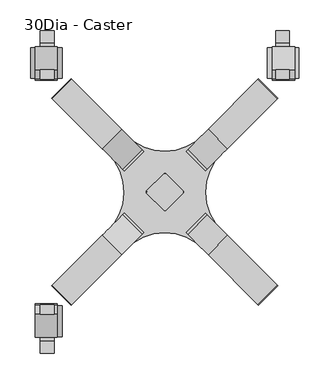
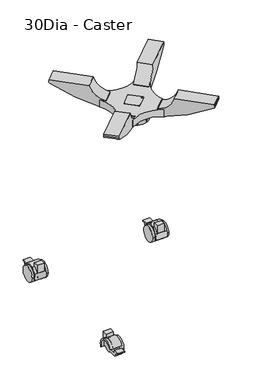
"""IFC4 building model written with IfcOpenShell, lengths in millimetres: furniture geometry, Coalesse_AM_Table_Conference_Ballet_Table_Round : 30Dia - Caster."""

from ifc_helpers import new_model, si_unit, point, frame, frame_2d, origin, place, context, project, spatial, polyline, circle_curve, ellipse_curve, trimmed, segment, composite_curve, outline, extrude, source, transform, mapped, element, save
from ifc_brep_helpers import plane_surface, cylinder_surface, revolved_surface, advanced_brep


def furniture_30dia_caster_6a6dbd40(model_context):
    return source(origin(), model_context, "Body", "SolidModel", [
        advanced_brep(
        [(-150.9398086, 182.2506224, 700.0114872), (-70.1175035, 101.4283173, 700.0114872), (-37.0411578, 68.3519716, 657.9865814), (-6.3643773, 37.6751912, 652.7037643), (0.0, 31.3108139, 656.2118338), (0.0, 31.3108139, 607.705542), (-12.3857352, 43.696549, 607.705542), (-14.2020287, 45.5128426, 611.6658356), (-15.6984339, 47.0092478, 622.1978097), (-23.1902019, 54.5010157, 628.8391432), (-41.0401266, 72.3509404, 632.6071482), (-149.5727323, 180.8835461, 688.6179), (-151.5948536, 182.9056675, 694.7577614), (1.002461, 30.3083528, 657.9865814), (30.3083528, 1.002461, 657.9865814), (31.3108139, 0.0, 656.2118338), (37.6751912, -6.3643773, 652.7037643), (68.3519716, -37.0411578, 657.9865814), (101.4283173, -70.1175035, 700.0114872), (182.2506224, -150.9398086, 700.0114872), (182.9056675, -151.5948536, 694.7577614), (180.8835461, -149.5727323, 688.6179), (72.3509404, -41.0401266, 632.6071482), (54.5010157, -23.1902019, 628.8391432), (47.0092478, -15.6984339, 622.1978097), (45.5128426, -14.2020287, 611.6658356), (43.696549, -12.3857352, 607.705542), (31.3108139, 0.0, 607.705542), (-182.2506224, 150.9398086, 700.0114872), (-182.9056675, 151.5948536, 694.7577614), (-180.8835461, 149.5727323, 688.6179), (-72.3509404, 41.0401266, 632.6071482), (-54.5010157, 23.1902019, 628.8391432), (-47.0092478, 15.6984339, 622.1978097), (-45.5128426, 14.2020287, 611.6658356), (-43.696549, 12.3857352, 607.705542), (-31.3108139, 0.0, 607.705542), (-31.3108139, 0.0, 656.2118338), (-37.6751912, 6.3643773, 652.7037643), (-68.3519716, 37.0411578, 657.9865814), (-101.4283173, 70.1175035, 700.0114872), (12.3857352, -43.696549, 607.705542), (14.2020287, -45.5128426, 611.6658356), (15.6984339, -47.0092478, 622.1978097), (23.1902019, -54.5010157, 628.8391432), (41.0401266, -72.3509404, 632.6071482), (149.5727323, -180.8835461, 688.6179), (151.5948536, -182.9056675, 694.7577614), (150.9398086, -182.2506224, 700.0114872), (70.1175035, -101.4283173, 700.0114872), (37.0411578, -68.3519716, 657.9865814), (6.3643773, -37.6751912, 652.7037643), (0.0, -31.3108139, 656.2118338), (0.0, -31.3108139, 607.705542), (-1.002461, -30.3083528, 657.9865814), (-30.3083528, -1.002461, 657.9865814), (0.0, 29.3058918, 657.9865814), (-29.3058918, 0.0, 657.9865814), (-1.002461, 30.3083528, 657.9865814), (-30.3083528, 1.002461, 657.9865814), (0.0, -29.3058918, 657.9865814), (1.002461, -30.3083528, 657.9865814), (30.3083528, -1.002461, 657.9865814), (29.3058918, 0.0, 657.9865814), (-12.3857352, -43.696549, 607.705542), (-43.696549, -12.3857352, 607.705542), (12.3857352, 43.696549, 607.705542), (43.696549, 12.3857352, 607.705542), (-182.2506224, -150.9398086, 700.0114872), (-101.4283173, -70.1175035, 700.0114872), (-68.3519716, -37.0411578, 657.9865814), (-37.6751912, -6.3643773, 652.7037643), (-45.5128426, -14.2020287, 611.6658356), (-47.0092478, -15.6984339, 622.1978097), (-54.5010157, -23.1902019, 628.8391432), (-72.3509404, -41.0401266, 632.6071482), (-180.8835461, -149.5727323, 688.6179), (-182.9056675, -151.5948536, 694.7577614), (6.3643773, 37.6751912, 652.7037643), (37.0411578, 68.3519716, 657.9865814), (70.1175035, 101.4283173, 700.0114872), (150.9398086, 182.2506224, 700.0114872), (151.5948536, 182.9056675, 694.7577614), (149.5727323, 180.8835461, 688.6179), (41.0401266, 72.3509404, 632.6071482), (23.1902019, 54.5010157, 628.8391432), (15.6984339, 47.0092478, 622.1978097), (14.2020287, 45.5128426, 611.6658356), (-150.9398086, -182.2506224, 700.0114872), (-151.5948536, -182.9056675, 694.7577614), (-149.5727323, -180.8835461, 688.6179), (-41.0401266, -72.3509404, 632.6071482), (-23.1902019, -54.5010157, 628.8391432), (-15.6984339, -47.0092478, 622.1978097), (-14.2020287, -45.5128426, 611.6658356), (-6.3643773, -37.6751912, 652.7037643), (-37.0411578, -68.3519716, 657.9865814), (-70.1175035, -101.4283173, 700.0114872), (45.5128426, 14.2020287, 611.6658356), (47.0092478, 15.6984339, 622.1978097), (54.5010157, 23.1902019, 628.8391432), (72.3509404, 41.0401266, 632.6071482), (180.8835461, 149.5727323, 688.6179), (182.9056675, 151.5948536, 694.7577614), (182.2506224, 150.9398086, 700.0114872), (101.4283173, 70.1175035, 700.0114872), (68.3519716, 37.0411578, 657.9865814), (37.6751912, 6.3643773, 652.7037643)],
        [
            (0, 1),
            (1, 2, circle_curve(frame((-29.0948532, 60.4056671, 717.5408002), z_axis=(-0.7071067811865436, -0.7071067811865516, 0.0), x_axis=(-0.7071067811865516, 0.7071067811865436, 0.0)), 60.6052183)),
            (2, 3, circle_curve(frame((6.8454357, 24.4653781, 986.8981875), z_axis=(-0.7071067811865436, -0.7071067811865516, 0.0), x_axis=(-0.7071067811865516, 0.7071067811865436, 0.0)), 334.7161645)),
            (3, 4, circle_curve(frame((-5.9045929, 37.2154067, 664.335829), z_axis=(-0.7071067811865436, -0.7071067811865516, 0.0), x_axis=(-0.7071067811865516, 0.7071067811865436, 0.0)), 11.6502245)),
            (4, 5),
            (5, 6),
            (6, 7, circle_curve(frame((-11.7932683, 43.1040822, 611.0621296), z_axis=(0.7071067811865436, 0.7071067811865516, 0.0), x_axis=(-0.7071067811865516, 0.7071067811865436, 0.0)), 3.4595829)),
            (7, 8, circle_curve(frame((-24.4463544, 55.7571683, 614.2333641), z_axis=(-0.7071067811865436, -0.7071067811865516, 0.0), x_axis=(-0.7071067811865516, 0.7071067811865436, 0.0)), 14.7134164)),
            (8, 9, circle_curve(frame((-24.4463544, 55.7571683, 614.2333641), z_axis=(-0.7071067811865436, -0.7071067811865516, 0.0), x_axis=(-0.7071067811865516, 0.7071067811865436, 0.0)), 14.7134164)),
            (9, 10, circle_curve(frame((16.961398, 14.3494158, 1095.6975551), z_axis=(0.7071067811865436, 0.7071067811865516, 0.0), x_axis=(-0.7071067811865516, 0.7071067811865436, 0.0)), 470.2989248)),
            (10, 11, circle_curve(frame((16.961398, 14.3494158, 1095.6975551), z_axis=(0.7071067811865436, 0.7071067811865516, 0.0), x_axis=(-0.7071067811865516, 0.7071067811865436, 0.0)), 470.2989248)),
            (11, 12, circle_curve(frame((-147.4806516, 178.7914655, 693.7318275), z_axis=(0.7071067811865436, 0.7071067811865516, 0.0), x_axis=(-0.7071067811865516, 0.7071067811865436, 0.0)), 5.9081179)),
            (12, 0),
            (13, 14),
            (14, 15, circle_curve(frame((37.2154067, -5.9045929, 664.335829), z_axis=(-0.7071067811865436, -0.7071067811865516, 0.0), x_axis=(-0.7071067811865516, 0.7071067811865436, 0.0)), 11.6502245)),
            (15, 4),
            (4, 13, circle_curve(frame((-5.9045929, 37.2154067, 664.335829), z_axis=(-0.7071067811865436, -0.7071067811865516, 0.0), x_axis=(-0.7071067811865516, 0.7071067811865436, 0.0)), 11.6502245)),
            (16, 17, circle_curve(frame((24.4653781, 6.8454357, 986.8981875), z_axis=(-0.7071067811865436, -0.7071067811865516, 0.0), x_axis=(-0.7071067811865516, 0.7071067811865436, 0.0)), 334.7161645)),
            (17, 18, circle_curve(frame((60.4056671, -29.0948532, 717.5408002), z_axis=(-0.7071067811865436, -0.7071067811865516, 0.0), x_axis=(-0.7071067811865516, 0.7071067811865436, 0.0)), 60.6052183)),
            (18, 19),
            (19, 20),
            (20, 21, circle_curve(frame((178.7914655, -147.4806516, 693.7318275), z_axis=(0.7071067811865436, 0.7071067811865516, 0.0), x_axis=(-0.7071067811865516, 0.7071067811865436, 0.0)), 5.9081179)),
            (21, 22, circle_curve(frame((14.3494158, 16.961398, 1095.6975551), z_axis=(0.7071067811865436, 0.7071067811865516, 0.0), x_axis=(-0.7071067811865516, 0.7071067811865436, 0.0)), 470.2989248)),
            (22, 23, circle_curve(frame((14.3494158, 16.961398, 1095.6975551), z_axis=(0.7071067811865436, 0.7071067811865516, 0.0), x_axis=(-0.7071067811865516, 0.7071067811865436, 0.0)), 470.2989248)),
            (23, 24, circle_curve(frame((55.7571683, -24.4463544, 614.2333641), z_axis=(-0.7071067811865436, -0.7071067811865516, 0.0), x_axis=(-0.7071067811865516, 0.7071067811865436, 0.0)), 14.7134164)),
            (24, 25, circle_curve(frame((55.7571683, -24.4463544, 614.2333641), z_axis=(-0.7071067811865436, -0.7071067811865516, 0.0), x_axis=(-0.7071067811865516, 0.7071067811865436, 0.0)), 14.7134164)),
            (25, 26, circle_curve(frame((43.1040822, -11.7932683, 611.0621296), z_axis=(0.7071067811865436, 0.7071067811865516, 0.0), x_axis=(-0.7071067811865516, 0.7071067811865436, 0.0)), 3.4595829)),
            (26, 27),
            (27, 15),
            (15, 16, circle_curve(frame((37.2154067, -5.9045929, 664.335829), z_axis=(-0.7071067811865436, -0.7071067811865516, 0.0), x_axis=(-0.7071067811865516, 0.7071067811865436, 0.0)), 11.6502245)),
            (28, 29),
            (29, 30, circle_curve(frame((-178.7914655, 147.4806516, 693.7318275), z_axis=(-0.7071067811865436, -0.7071067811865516, 0.0), x_axis=(-0.7071067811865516, 0.7071067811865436, 0.0)), 5.9081179)),
            (30, 31, circle_curve(frame((-14.3494158, -16.961398, 1095.6975551), z_axis=(-0.7071067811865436, -0.7071067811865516, 0.0), x_axis=(-0.7071067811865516, 0.7071067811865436, 0.0)), 470.2989248)),
            (31, 32, circle_curve(frame((-14.3494158, -16.961398, 1095.6975551), z_axis=(-0.7071067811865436, -0.7071067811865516, 0.0), x_axis=(-0.7071067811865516, 0.7071067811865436, 0.0)), 470.2989248)),
            (32, 33, circle_curve(frame((-55.7571683, 24.4463544, 614.2333641), z_axis=(0.7071067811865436, 0.7071067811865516, 0.0), x_axis=(-0.7071067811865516, 0.7071067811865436, 0.0)), 14.7134164)),
            (33, 34, circle_curve(frame((-55.7571683, 24.4463544, 614.2333641), z_axis=(0.7071067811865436, 0.7071067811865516, 0.0), x_axis=(-0.7071067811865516, 0.7071067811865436, 0.0)), 14.7134164)),
            (34, 35, circle_curve(frame((-43.1040822, 11.7932683, 611.0621296), z_axis=(-0.7071067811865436, -0.7071067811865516, 0.0), x_axis=(-0.7071067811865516, 0.7071067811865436, 0.0)), 3.4595829)),
            (35, 36),
            (36, 37),
            (37, 38, circle_curve(frame((-37.2154067, 5.9045929, 664.335829), z_axis=(0.7071067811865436, 0.7071067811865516, 0.0), x_axis=(-0.7071067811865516, 0.7071067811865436, 0.0)), 11.6502245)),
            (38, 39, circle_curve(frame((-24.4653781, -6.8454357, 986.8981875), z_axis=(0.7071067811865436, 0.7071067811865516, 0.0), x_axis=(-0.7071067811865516, 0.7071067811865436, 0.0)), 334.7161645)),
            (39, 40, circle_curve(frame((-60.4056671, 29.0948532, 717.5408002), z_axis=(0.7071067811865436, 0.7071067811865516, 0.0), x_axis=(-0.7071067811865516, 0.7071067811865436, 0.0)), 60.6052183)),
            (40, 28),
            (41, 42, circle_curve(frame((11.7932683, -43.1040822, 611.0621296), z_axis=(-0.7071067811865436, -0.7071067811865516, 0.0), x_axis=(-0.7071067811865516, 0.7071067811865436, 0.0)), 3.4595829)),
            (42, 43, circle_curve(frame((24.4463544, -55.7571683, 614.2333641), z_axis=(0.7071067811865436, 0.7071067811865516, 0.0), x_axis=(-0.7071067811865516, 0.7071067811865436, 0.0)), 14.7134164)),
            (43, 44, circle_curve(frame((24.4463544, -55.7571683, 614.2333641), z_axis=(0.7071067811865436, 0.7071067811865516, 0.0), x_axis=(-0.7071067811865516, 0.7071067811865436, 0.0)), 14.7134164)),
            (44, 45, circle_curve(frame((-16.961398, -14.3494158, 1095.6975551), z_axis=(-0.7071067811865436, -0.7071067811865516, 0.0), x_axis=(-0.7071067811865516, 0.7071067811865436, 0.0)), 470.2989248)),
            (45, 46, circle_curve(frame((-16.961398, -14.3494158, 1095.6975551), z_axis=(-0.7071067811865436, -0.7071067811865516, 0.0), x_axis=(-0.7071067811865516, 0.7071067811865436, 0.0)), 470.2989248)),
            (46, 47, circle_curve(frame((147.4806516, -178.7914655, 693.7318275), z_axis=(-0.7071067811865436, -0.7071067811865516, 0.0), x_axis=(-0.7071067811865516, 0.7071067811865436, 0.0)), 5.9081179)),
            (47, 48),
            (48, 49),
            (49, 50, circle_curve(frame((29.0948532, -60.4056671, 717.5408002), z_axis=(0.7071067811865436, 0.7071067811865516, 0.0), x_axis=(-0.7071067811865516, 0.7071067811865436, 0.0)), 60.6052183)),
            (50, 51, circle_curve(frame((-6.8454357, -24.4653781, 986.8981875), z_axis=(0.7071067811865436, 0.7071067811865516, 0.0), x_axis=(-0.7071067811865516, 0.7071067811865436, 0.0)), 334.7161645)),
            (51, 52, circle_curve(frame((5.9045929, -37.2154067, 664.335829), z_axis=(0.7071067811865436, 0.7071067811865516, 0.0), x_axis=(-0.7071067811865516, 0.7071067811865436, 0.0)), 11.6502245)),
            (52, 53),
            (53, 41),
            (54, 55),
            (55, 37, circle_curve(frame((-37.2154067, 5.9045929, 664.335829), z_axis=(0.7071067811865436, 0.7071067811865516, 0.0), x_axis=(-0.7071067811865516, 0.7071067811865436, 0.0)), 11.6502245)),
            (37, 52),
            (52, 54, circle_curve(frame((5.9045929, -37.2154067, 664.335829), z_axis=(0.7071067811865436, 0.7071067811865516, 0.0), x_axis=(-0.7071067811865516, 0.7071067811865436, 0.0)), 11.6502245)),
            (0, 28),
            (40, 1),
            (39, 2),
            (38, 3),
            (4, 56, ellipse_curve(frame((0.0, 43.1199996, 664.335829), z_axis=(-1.0, 0.0, 0.0), x_axis=(0.0, -1.0, 0.0)), 16.4759055, 11.6502245)),
            (56, 13),
            (55, 57),
            (57, 37, ellipse_curve(frame((-43.1199996, 0.0, 664.335829), z_axis=(0.0, 1.0, 0.0), x_axis=(-1.0, 0.0, 0.0)), 16.4759055, 11.6502245)),
            (37, 4),
            (56, 58),
            (58, 59),
            (59, 57),
            (54, 60),
            (60, 61),
            (61, 62),
            (62, 63),
            (63, 14),
            (63, 15, ellipse_curve(frame((43.1199996, 0.0, 664.335829), z_axis=(0.0, -1.0, 0.0), x_axis=(-1.0, 0.0, 0.0)), 16.4759055, 11.6502245)),
            (52, 60, ellipse_curve(frame((0.0, -43.1199996, 664.335829), z_axis=(1.0, 0.0, 0.0), x_axis=(0.0, -1.0, 0.0)), 16.4759055, 11.6502245)),
            (51, 16),
            (15, 52),
            (50, 17),
            (49, 18),
            (48, 19),
            (47, 20),
            (46, 21),
            (45, 22),
            (44, 23),
            (43, 24),
            (42, 25),
            (41, 26),
            (53, 64),
            (64, 65),
            (65, 36),
            (35, 6),
            (5, 66),
            (66, 67),
            (67, 27),
            (34, 7),
            (33, 8),
            (32, 9),
            (31, 10),
            (30, 11),
            (29, 12),
            (58, 4, circle_curve(frame((5.9045929, 37.2154067, 664.335829), z_axis=(0.707106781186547, -0.7071067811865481, 0.0), x_axis=(-0.7071067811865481, -0.707106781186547, 0.0)), 11.6502245)),
            (37, 59, circle_curve(frame((-37.2154067, -5.9045929, 664.335829), z_axis=(0.707106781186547, -0.7071067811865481, 0.0), x_axis=(-0.7071067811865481, -0.707106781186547, 0.0)), 11.6502245)),
            (68, 69),
            (69, 70, circle_curve(frame((-60.4056671, -29.0948532, 717.5408002), z_axis=(0.707106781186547, -0.7071067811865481, 0.0), x_axis=(-0.7071067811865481, -0.707106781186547, 0.0)), 60.6052183)),
            (70, 71, circle_curve(frame((-24.4653781, 6.8454357, 986.8981875), z_axis=(0.707106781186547, -0.7071067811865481, 0.0), x_axis=(-0.7071067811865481, -0.707106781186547, 0.0)), 334.7161645)),
            (71, 37, circle_curve(frame((-37.2154067, -5.9045929, 664.335829), z_axis=(0.707106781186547, -0.7071067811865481, 0.0), x_axis=(-0.7071067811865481, -0.707106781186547, 0.0)), 11.6502245)),
            (65, 72, circle_curve(frame((-43.1040822, -11.7932683, 611.0621296), z_axis=(-0.707106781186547, 0.7071067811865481, 0.0), x_axis=(-0.7071067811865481, -0.707106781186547, 0.0)), 3.4595829)),
            (72, 73, circle_curve(frame((-55.7571683, -24.4463544, 614.2333641), z_axis=(0.707106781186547, -0.7071067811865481, 0.0), x_axis=(-0.7071067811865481, -0.707106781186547, 0.0)), 14.7134164)),
            (73, 74, circle_curve(frame((-55.7571683, -24.4463544, 614.2333641), z_axis=(0.707106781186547, -0.7071067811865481, 0.0), x_axis=(-0.7071067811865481, -0.707106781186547, 0.0)), 14.7134164)),
            (74, 75, circle_curve(frame((-14.3494158, 16.961398, 1095.6975551), z_axis=(-0.707106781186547, 0.7071067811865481, 0.0), x_axis=(-0.7071067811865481, -0.707106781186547, 0.0)), 470.2989248)),
            (75, 76, circle_curve(frame((-14.3494158, 16.961398, 1095.6975551), z_axis=(-0.707106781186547, 0.7071067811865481, 0.0), x_axis=(-0.7071067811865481, -0.707106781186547, 0.0)), 470.2989248)),
            (76, 77, circle_curve(frame((-178.7914655, -147.4806516, 693.7318275), z_axis=(-0.707106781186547, 0.7071067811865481, 0.0), x_axis=(-0.7071067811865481, -0.707106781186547, 0.0)), 5.9081179)),
            (77, 68),
            (78, 79, circle_curve(frame((-6.8454357, 24.4653781, 986.8981875), z_axis=(0.707106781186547, -0.7071067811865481, 0.0), x_axis=(-0.7071067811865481, -0.707106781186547, 0.0)), 334.7161645)),
            (79, 80, circle_curve(frame((29.0948532, 60.4056671, 717.5408002), z_axis=(0.707106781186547, -0.7071067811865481, 0.0), x_axis=(-0.7071067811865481, -0.707106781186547, 0.0)), 60.6052183)),
            (80, 81),
            (81, 82),
            (82, 83, circle_curve(frame((147.4806516, 178.7914655, 693.7318275), z_axis=(-0.707106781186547, 0.7071067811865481, 0.0), x_axis=(-0.7071067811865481, -0.707106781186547, 0.0)), 5.9081179)),
            (83, 84, circle_curve(frame((-16.961398, 14.3494158, 1095.6975551), z_axis=(-0.707106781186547, 0.7071067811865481, 0.0), x_axis=(-0.7071067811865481, -0.707106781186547, 0.0)), 470.2989248)),
            (84, 85, circle_curve(frame((-16.961398, 14.3494158, 1095.6975551), z_axis=(-0.707106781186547, 0.7071067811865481, 0.0), x_axis=(-0.7071067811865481, -0.707106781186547, 0.0)), 470.2989248)),
            (85, 86, circle_curve(frame((24.4463544, 55.7571683, 614.2333641), z_axis=(0.707106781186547, -0.7071067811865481, 0.0), x_axis=(-0.7071067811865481, -0.707106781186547, 0.0)), 14.7134164)),
            (86, 87, circle_curve(frame((24.4463544, 55.7571683, 614.2333641), z_axis=(0.707106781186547, -0.7071067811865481, 0.0), x_axis=(-0.7071067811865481, -0.707106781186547, 0.0)), 14.7134164)),
            (87, 66, circle_curve(frame((11.7932683, 43.1040822, 611.0621296), z_axis=(-0.707106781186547, 0.7071067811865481, 0.0), x_axis=(-0.7071067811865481, -0.707106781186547, 0.0)), 3.4595829)),
            (4, 78, circle_curve(frame((5.9045929, 37.2154067, 664.335829), z_axis=(0.707106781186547, -0.7071067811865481, 0.0), x_axis=(-0.7071067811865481, -0.707106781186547, 0.0)), 11.6502245)),
            (61, 52, circle_curve(frame((-5.9045929, -37.2154067, 664.335829), z_axis=(-0.707106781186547, 0.7071067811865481, 0.0), x_axis=(-0.7071067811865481, -0.707106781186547, 0.0)), 11.6502245)),
            (15, 62, circle_curve(frame((37.2154067, 5.9045929, 664.335829), z_axis=(-0.707106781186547, 0.7071067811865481, 0.0), x_axis=(-0.7071067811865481, -0.707106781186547, 0.0)), 11.6502245)),
            (88, 89),
            (89, 90, circle_curve(frame((-147.4806516, -178.7914655, 693.7318275), z_axis=(0.707106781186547, -0.7071067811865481, 0.0), x_axis=(-0.7071067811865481, -0.707106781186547, 0.0)), 5.9081179)),
            (90, 91, circle_curve(frame((16.961398, -14.3494158, 1095.6975551), z_axis=(0.707106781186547, -0.7071067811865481, 0.0), x_axis=(-0.7071067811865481, -0.707106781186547, 0.0)), 470.2989248)),
            (91, 92, circle_curve(frame((16.961398, -14.3494158, 1095.6975551), z_axis=(0.707106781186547, -0.7071067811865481, 0.0), x_axis=(-0.7071067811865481, -0.707106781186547, 0.0)), 470.2989248)),
            (92, 93, circle_curve(frame((-24.4463544, -55.7571683, 614.2333641), z_axis=(-0.707106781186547, 0.7071067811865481, 0.0), x_axis=(-0.7071067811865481, -0.707106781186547, 0.0)), 14.7134164)),
            (93, 94, circle_curve(frame((-24.4463544, -55.7571683, 614.2333641), z_axis=(-0.707106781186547, 0.7071067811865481, 0.0), x_axis=(-0.7071067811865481, -0.707106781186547, 0.0)), 14.7134164)),
            (94, 64, circle_curve(frame((-11.7932683, -43.1040822, 611.0621296), z_axis=(0.707106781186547, -0.7071067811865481, 0.0), x_axis=(-0.7071067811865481, -0.707106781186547, 0.0)), 3.4595829)),
            (52, 95, circle_curve(frame((-5.9045929, -37.2154067, 664.335829), z_axis=(-0.707106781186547, 0.7071067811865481, 0.0), x_axis=(-0.7071067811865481, -0.707106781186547, 0.0)), 11.6502245)),
            (95, 96, circle_curve(frame((6.8454357, -24.4653781, 986.8981875), z_axis=(-0.707106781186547, 0.7071067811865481, 0.0), x_axis=(-0.7071067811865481, -0.707106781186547, 0.0)), 334.7161645)),
            (96, 97, circle_curve(frame((-29.0948532, -60.4056671, 717.5408002), z_axis=(-0.707106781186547, 0.7071067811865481, 0.0), x_axis=(-0.7071067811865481, -0.707106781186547, 0.0)), 60.6052183)),
            (97, 88),
            (67, 98, circle_curve(frame((43.1040822, 11.7932683, 611.0621296), z_axis=(0.707106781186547, -0.7071067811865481, 0.0), x_axis=(-0.7071067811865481, -0.707106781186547, 0.0)), 3.4595829)),
            (98, 99, circle_curve(frame((55.7571683, 24.4463544, 614.2333641), z_axis=(-0.707106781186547, 0.7071067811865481, 0.0), x_axis=(-0.7071067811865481, -0.707106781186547, 0.0)), 14.7134164)),
            (99, 100, circle_curve(frame((55.7571683, 24.4463544, 614.2333641), z_axis=(-0.707106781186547, 0.7071067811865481, 0.0), x_axis=(-0.7071067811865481, -0.707106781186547, 0.0)), 14.7134164)),
            (100, 101, circle_curve(frame((14.3494158, -16.961398, 1095.6975551), z_axis=(0.707106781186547, -0.7071067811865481, 0.0), x_axis=(-0.7071067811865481, -0.707106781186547, 0.0)), 470.2989248)),
            (101, 102, circle_curve(frame((14.3494158, -16.961398, 1095.6975551), z_axis=(0.707106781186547, -0.7071067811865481, 0.0), x_axis=(-0.7071067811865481, -0.707106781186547, 0.0)), 470.2989248)),
            (102, 103, circle_curve(frame((178.7914655, 147.4806516, 693.7318275), z_axis=(0.707106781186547, -0.7071067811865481, 0.0), x_axis=(-0.7071067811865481, -0.707106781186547, 0.0)), 5.9081179)),
            (103, 104),
            (104, 105),
            (105, 106, circle_curve(frame((60.4056671, 29.0948532, 717.5408002), z_axis=(-0.707106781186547, 0.7071067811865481, 0.0), x_axis=(-0.7071067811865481, -0.707106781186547, 0.0)), 60.6052183)),
            (106, 107, circle_curve(frame((24.4653781, -6.8454357, 986.8981875), z_axis=(-0.707106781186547, 0.7071067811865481, 0.0), x_axis=(-0.7071067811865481, -0.707106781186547, 0.0)), 334.7161645)),
            (107, 15, circle_curve(frame((37.2154067, 5.9045929, 664.335829), z_axis=(-0.707106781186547, 0.7071067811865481, 0.0), x_axis=(-0.7071067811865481, -0.707106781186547, 0.0)), 11.6502245)),
            (68, 88),
            (97, 69),
            (96, 70),
            (95, 71),
            (107, 78),
            (106, 79),
            (105, 80),
            (104, 81),
            (103, 82),
            (102, 83),
            (101, 84),
            (100, 85),
            (99, 86),
            (98, 87),
            (94, 72),
            (93, 73),
            (92, 74),
            (91, 75),
            (90, 76),
            (89, 77),
        ],
        [
            plane_surface(frame((-70.1175035, 101.4283173, 700.0114872), z_axis=(0.7071067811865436, 0.7071067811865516, 0.0), x_axis=(0.7071067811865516, -0.7071067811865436, 0.0))),
            plane_surface(frame((-101.4283173, 70.1175035, 700.0114872), z_axis=(-0.7071067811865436, -0.7071067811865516, 0.0), x_axis=(-0.7071067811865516, 0.7071067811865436, 0.0))),
            plane_surface(frame((-150.9398086, 182.2506224, 700.0114872), z_axis=(0.0, 0.0, 1.0000000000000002), x_axis=(-0.7071067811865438, -0.7071067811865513, 0.0))),
            revolved_surface(polyline([(-103.26002793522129, 71.9492140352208, 717.5408002), (-71.94921403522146, 103.26002793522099, 717.5408002)]), (-60.4056671, 29.0948532, 717.5408002), (-0.7071067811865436, -0.7071067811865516, 0.0)),
            revolved_surface(polyline([(-261.14544784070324, 229.83463394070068, 986.8981875), (-229.8346339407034, 261.14544784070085, 986.8981875)]), (-24.4653781, -6.8454357, 986.8981875), (-0.7071067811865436, -0.7071067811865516, 0.0)),
            revolved_surface(polyline([(-16.475905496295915, 43.11999959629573, 664.335829), (3.7040877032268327e-09, 59.595905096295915, 664.335829)]), (-37.2154067, 5.9045929, 664.335829), (-0.7071067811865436, -0.7071067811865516, 0.0)),
            revolved_surface(polyline([(-59.59590509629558, -3.7044252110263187e-09, 664.335829), (-43.11999959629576, 16.475905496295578, 664.335829)]), (-37.2154067, 5.9045929, 664.335829), (-0.7071067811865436, -0.7071067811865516, 0.0)),
            revolved_surface(polyline([(-45.45335949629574, 14.142545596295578, 664.335829), (-14.142545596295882, 45.45335949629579, 664.335829)]), (-37.2154067, 5.9045929, 664.335829), (-0.7071067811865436, -0.7071067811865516, 0.0)),
            plane_surface(frame((1.002461, 30.3083528, 657.9865814), z_axis=(0.0, 0.0, 1.0), x_axis=(-0.7071067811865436, -0.7071067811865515, 0.0))),
            revolved_surface(polyline([(26.644094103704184, -3.7041800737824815e-09, 664.335829), (43.119999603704, 16.47590549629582, 664.335829)]), (5.9045929, -37.2154067, 664.335829), (-0.7071067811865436, -0.7071067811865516, 0.0)),
            revolved_surface(polyline([(-16.47590549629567, -43.11999960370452, 664.335829), (3.7043319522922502e-09, -26.644094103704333, 664.335829)]), (5.9045929, -37.2154067, 664.335829), (-0.7071067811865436, -0.7071067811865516, 0.0)),
            revolved_surface(polyline([(-2.333359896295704, -28.977454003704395, 664.335829), (28.977454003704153, 2.3333598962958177, 664.335829)]), (5.9045929, -37.2154067, 664.335829), (-0.7071067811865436, -0.7071067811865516, 0.0)),
            revolved_surface(polyline([(-243.52550544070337, 212.21469154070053, 986.8981875), (-212.21469154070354, 243.5255054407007, 986.8981875)]), (-6.8454357, -24.4653781, 986.8981875), (-0.7071067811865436, -0.7071067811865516, 0.0)),
            revolved_surface(polyline([(-13.759507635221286, -17.5513062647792, 717.5408002), (17.551306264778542, 13.759507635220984, 717.5408002)]), (29.0948532, -60.4056671, 717.5408002), (-0.7071067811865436, -0.7071067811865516, 0.0)),
            plane_surface(frame((101.4283173, -70.1175035, 700.0114872), z_axis=(0.0, 0.0, 1.0000000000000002), x_axis=(-0.707106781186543, -0.7071067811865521, 0.0))),
            plane_surface(frame((182.2506224, -150.9398086, 700.0114872), z_axis=(0.6963642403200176, -0.6963642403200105, 0.17364817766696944), x_axis=(-0.7071067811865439, -0.7071067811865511, 0.0))),
            cylinder_surface(frame((147.4806516, -178.7914655, 693.7318275), z_axis=(0.7071067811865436, 0.7071067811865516, 0.0), x_axis=(-0.7071067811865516, 0.7071067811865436, 0.0)), 5.9081179),
            cylinder_surface(frame((-16.961398, -14.3494158, 1095.6975551), z_axis=(0.7071067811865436, 0.7071067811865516, 0.0), x_axis=(-0.7071067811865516, 0.7071067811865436, 0.0)), 470.2989248),
            revolved_surface(polyline([(14.04239788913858, -45.3532117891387, 614.2333641), (45.353211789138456, -14.042397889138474, 614.2333641)]), (24.4463544, -55.7571683, 614.2333641), (-0.7071067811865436, -0.7071067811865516, 0.0)),
            revolved_surface(polyline([(14.04239788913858, -45.3532117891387, 614.2333641), (45.35321178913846, -14.042397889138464, 614.2333641)]), (24.4463544, -55.7571683, 614.2333641), (-0.7071067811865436, -0.7071067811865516, 0.0)),
            cylinder_surface(frame((11.7932683, -43.1040822, 611.0621296), z_axis=(0.7071067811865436, 0.7071067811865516, 0.0), x_axis=(-0.7071067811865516, 0.7071067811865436, 0.0)), 3.4595829),
            plane_surface(frame((43.696549, -12.3857352, 607.705542), z_axis=(0.0, 0.0, -1.0), x_axis=(-0.7071067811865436, -0.7071067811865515, 0.0))),
            cylinder_surface(frame((-43.1040822, 11.7932683, 611.0621296), z_axis=(0.7071067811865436, 0.7071067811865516, 0.0), x_axis=(-0.7071067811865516, 0.7071067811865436, 0.0)), 3.4595829),
            revolved_surface(polyline([(-66.16112481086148, 34.850310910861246, 614.2333641), (-34.8503109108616, 66.16112481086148, 614.2333641)]), (-55.7571683, 24.4463544, 614.2333641), (-0.7071067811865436, -0.7071067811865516, 0.0)),
            revolved_surface(polyline([(-66.16112481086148, 34.85031091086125, 614.2333641), (-34.8503109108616, 66.16112481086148, 614.2333641)]), (-55.7571683, 24.4463544, 614.2333641), (-0.7071067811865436, -0.7071067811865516, 0.0)),
            cylinder_surface(frame((-14.3494158, -16.961398, 1095.6975551), z_axis=(0.7071067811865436, 0.7071067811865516, 0.0), x_axis=(-0.7071067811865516, 0.7071067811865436, 0.0)), 470.2989248),
            cylinder_surface(frame((-178.7914655, 147.4806516, 693.7318275), z_axis=(0.7071067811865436, 0.7071067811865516, 0.0), x_axis=(-0.7071067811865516, 0.7071067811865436, 0.0)), 5.9081179),
            plane_surface(frame((-151.5948536, 182.9056675, 694.7577614), z_axis=(-0.6963642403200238, 0.6963642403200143, 0.17364817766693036), x_axis=(-0.7071067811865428, -0.7071067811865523, 0.0))),
            plane_surface(frame((-101.4283173, -70.1175035, 700.0114872), z_axis=(-0.707106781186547, 0.707106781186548, 0.0), x_axis=(0.707106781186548, 0.707106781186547, 0.0))),
            plane_surface(frame((-70.1175035, -101.4283173, 700.0114872), z_axis=(0.707106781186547, -0.707106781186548, 0.0), x_axis=(-0.707106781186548, -0.707106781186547, 0.0))),
            plane_surface(frame((-182.2506224, -150.9398086, 700.0114872), z_axis=(0.0, 0.0, 1.0), x_axis=(0.7071067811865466, -0.7071067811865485, 0.0))),
            revolved_surface(polyline([(-71.94921403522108, -103.26002793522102, 717.5408002), (-103.26002793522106, -71.94921403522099, 717.5408002)]), (-29.0948532, -60.4056671, 717.5408002), (0.707106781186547, -0.7071067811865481, 0.0)),
            revolved_surface(polyline([(-229.83463394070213, -261.14544784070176, 986.8981875), (-261.1454478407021, -229.83463394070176, 986.8981875)]), (6.8454357, -24.4653781, 986.8981875), (0.707106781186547, -0.7071067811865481, 0.0)),
            revolved_surface(polyline([(-43.11999959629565, -16.475905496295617, 664.335829), (-59.595905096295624, 3.704386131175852e-09, 664.335829)]), (-5.9045929, -37.2154067, 664.335829), (0.707106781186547, -0.7071067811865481, 0.0)),
            revolved_surface(polyline([(3.7043346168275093e-09, -59.59590509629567, 664.335829), (-16.475905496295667, -43.11999959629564, 664.335829)]), (-5.9045929, -37.2154067, 664.335829), (0.707106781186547, -0.7071067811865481, 0.0)),
            revolved_surface(polyline([(-14.142545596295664, -45.45335949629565, 664.335829), (-45.45335949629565, -14.142545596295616, 664.335829)]), (-5.9045929, -37.2154067, 664.335829), (0.707106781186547, -0.7071067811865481, 0.0)),
            revolved_surface(polyline([(3.704368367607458e-09, 26.64409410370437, 664.335829), (-16.47590549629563, 43.11999960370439, 664.335829)]), (37.2154067, 5.9045929, 664.335829), (0.707106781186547, -0.7071067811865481, 0.0)),
            revolved_surface(polyline([(43.11999960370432, -16.475905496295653, 664.335829), (26.644094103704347, 3.704347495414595e-09, 664.335829)]), (37.2154067, 5.9045929, 664.335829), (0.707106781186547, -0.7071067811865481, 0.0)),
            revolved_surface(polyline([(28.977454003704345, -2.3333598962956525, 664.335829), (-2.3333598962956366, 28.977454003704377, 664.335829)]), (37.2154067, 5.9045929, 664.335829), (0.707106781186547, -0.7071067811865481, 0.0)),
            revolved_surface(polyline([(-212.21469154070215, -243.52550544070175, 986.8981875), (-243.52550544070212, -212.21469154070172, 986.8981875)]), (24.4653781, -6.8454357, 986.8981875), (0.707106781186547, -0.7071067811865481, 0.0)),
            revolved_surface(polyline([(17.551306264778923, -13.759507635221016, 717.5408002), (-13.759507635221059, 17.551306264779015, 717.5408002)]), (60.4056671, 29.0948532, 717.5408002), (0.707106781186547, -0.7071067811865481, 0.0)),
            plane_surface(frame((70.1175035, 101.4283173, 700.0114872), z_axis=(0.0, 0.0, 1.0), x_axis=(0.7071067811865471, -0.7071067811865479, 0.0))),
            plane_surface(frame((150.9398086, 182.2506224, 700.0114872), z_axis=(0.6963642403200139, 0.6963642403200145, 0.17364817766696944), x_axis=(0.7071067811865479, -0.7071067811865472, 0.0))),
            cylinder_surface(frame((178.7914655, 147.4806516, 693.7318275), z_axis=(-0.707106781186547, 0.7071067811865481, 0.0), x_axis=(-0.7071067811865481, -0.707106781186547, 0.0)), 5.9081179),
            cylinder_surface(frame((14.3494158, -16.961398, 1095.6975551), z_axis=(-0.707106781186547, 0.7071067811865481, 0.0), x_axis=(-0.7071067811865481, -0.707106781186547, 0.0)), 470.2989248),
            revolved_surface(polyline([(45.35321178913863, 14.042397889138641, 614.2333641), (14.042397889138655, 45.35321178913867, 614.2333641)]), (55.7571683, 24.4463544, 614.2333641), (0.707106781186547, -0.7071067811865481, 0.0)),
            revolved_surface(polyline([(45.35321178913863, 14.04239788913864, 614.2333641), (14.042397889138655, 45.35321178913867, 614.2333641)]), (55.7571683, 24.4463544, 614.2333641), (0.707106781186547, -0.7071067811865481, 0.0)),
            cylinder_surface(frame((43.1040822, 11.7932683, 611.0621296), z_axis=(-0.707106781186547, 0.7071067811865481, 0.0), x_axis=(-0.7071067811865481, -0.707106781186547, 0.0)), 3.4595829),
            cylinder_surface(frame((-11.7932683, -43.1040822, 611.0621296), z_axis=(-0.707106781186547, 0.7071067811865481, 0.0), x_axis=(-0.7071067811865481, -0.707106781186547, 0.0)), 3.4595829),
            revolved_surface(polyline([(-34.85031091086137, -66.16112481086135, 614.2333641), (-66.16112481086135, -34.85031091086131, 614.2333641)]), (-24.4463544, -55.7571683, 614.2333641), (0.707106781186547, -0.7071067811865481, 0.0)),
            revolved_surface(polyline([(-34.85031091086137, -66.16112481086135, 614.2333641), (-66.16112481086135, -34.850310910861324, 614.2333641)]), (-24.4463544, -55.7571683, 614.2333641), (0.707106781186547, -0.7071067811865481, 0.0)),
            cylinder_surface(frame((16.961398, -14.3494158, 1095.6975551), z_axis=(-0.707106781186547, 0.7071067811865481, 0.0), x_axis=(-0.7071067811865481, -0.707106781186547, 0.0)), 470.2989248),
            cylinder_surface(frame((-147.4806516, -178.7914655, 693.7318275), z_axis=(-0.707106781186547, 0.7071067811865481, 0.0), x_axis=(-0.7071067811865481, -0.707106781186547, 0.0)), 5.9081179),
            plane_surface(frame((-182.9056675, -151.5948536, 694.7577614), z_axis=(-0.6963642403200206, -0.6963642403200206, 0.1736481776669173), x_axis=(0.7071067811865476, -0.7071067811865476, 0.0))),
        ],
        [
            (0, [[1, 2, 3, 4, 5, 6, 7, 8, 9, 10, 11, 12, 13]]),
            (0, [[14, 15, 16, 17]]),
            (0, [[18, 19, 20, 21, 22, 23, 24, 25, 26, 27, 28, 29, 30]]),
            (1, [[31, 32, 33, 34, 35, 36, 37, 38, 39, 40, 41, 42, 43]]),
            (1, [[44, 45, 46, 47, 48, 49, 50, 51, 52, 53, 54, 55, 56]]),
            (1, [[57, 58, 59, 60]]),
            (2, [[-1, 61, -43, 62]]),
            (3, [[-2, -62, -42, 63]]),
            (4, [[-3, -63, -41, 64]]),
            (5, [[-17, 65, 66]]),
            (6, [[-58, 67, 68]]),
            (7, [[-64, -40, 69, -4]]),
            (8, [[-14, -66, 70, 71, 72, -67, -57, 73, 74, 75, 76, 77]]),
            (9, [[-15, -77, 78]]),
            (10, [[-60, 79, -73]]),
            (11, [[80, -30, 81, -54]]),
            (12, [[-18, -80, -53, 82]]),
            (13, [[-19, -82, -52, 83]]),
            (14, [[-20, -83, -51, 84]]),
            (15, [[-21, -84, -50, 85]]),
            (16, [[-22, -85, -49, 86]]),
            (17, [[-23, -86, -48, 87]]),
            (17, [[-24, -87, -47, 88]]),
            (18, [[-25, -88, -46, 89]]),
            (19, [[-26, -89, -45, 90]]),
            (20, [[-27, -90, -44, 91]]),
            (21, [[-91, -56, 92, 93, 94, -38, 95, -6, 96, 97, 98, -28]]),
            (22, [[-7, -95, -37, 99]]),
            (23, [[-8, -99, -36, 100]]),
            (24, [[-9, -100, -35, 101]]),
            (25, [[-10, -101, -34, 102]]),
            (25, [[-11, -102, -33, 103]]),
            (26, [[-12, -103, -32, 104]]),
            (27, [[-13, -104, -31, -61]]),
            (28, [[-71, 105, -69, 106]]),
            (28, [[107, 108, 109, 110, -39, -94, 111, 112, 113, 114, 115, 116, 117]]),
            (28, [[118, 119, 120, 121, 122, 123, 124, 125, 126, 127, -96, -5, 128]]),
            (29, [[-75, 129, -81, 130]]),
            (29, [[131, 132, 133, 134, 135, 136, 137, -92, -55, 138, 139, 140, 141]]),
            (29, [[142, 143, 144, 145, 146, 147, 148, 149, 150, 151, 152, -29, -98]]),
            (30, [[-107, 153, -141, 154]]),
            (31, [[-108, -154, -140, 155]]),
            (32, [[-109, -155, -139, 156]]),
            (33, [[-106, -68, -72]]),
            (34, [[-129, -74, -79]]),
            (35, [[-156, -138, -59, -110]]),
            (36, [[-105, -70, -65]]),
            (37, [[-130, -78, -76]]),
            (38, [[157, -128, -16, -152]]),
            (39, [[-118, -157, -151, 158]]),
            (40, [[-119, -158, -150, 159]]),
            (41, [[-120, -159, -149, 160]]),
            (42, [[-121, -160, -148, 161]]),
            (43, [[-122, -161, -147, 162]]),
            (44, [[-123, -162, -146, 163]]),
            (44, [[-124, -163, -145, 164]]),
            (45, [[-125, -164, -144, 165]]),
            (46, [[-126, -165, -143, 166]]),
            (47, [[-127, -166, -142, -97]]),
            (48, [[-111, -93, -137, 167]]),
            (49, [[-112, -167, -136, 168]]),
            (50, [[-113, -168, -135, 169]]),
            (51, [[-114, -169, -134, 170]]),
            (51, [[-115, -170, -133, 171]]),
            (52, [[-116, -171, -132, 172]]),
            (53, [[-117, -172, -131, -153]]),
        ],
    ),
        advanced_brep(
        [(-81.1409418, 49.3084633, 657.9865814), (-82.3248918, -51.014078, 657.9865814), (-51.0893198, -82.2496499, 657.9865814), (50.5881651, -81.8989789, 657.9865814), (81.7629451, -50.7241989, 657.9865814), (81.1309866, 49.8201728, 657.9865814), (49.871233, 81.0799264, 657.9865814), (-49.5692956, 80.8801095, 657.9865814), (-81.1409418, 49.3084633, 635.3095602), (-49.5692956, 80.8801095, 635.3095602), (49.871233, 81.0799264, 635.3095602), (81.1309866, 49.8201728, 635.3095602), (81.7629451, -50.7241989, 635.3095602), (50.5881651, -81.8989789, 635.3095602), (-51.0893198, -82.2496499, 635.3095602), (-82.3248918, -51.014078, 635.3095602), (-37.2834365, 26.9246599, 635.3095602), (-37.2834365, -26.9568769, 635.3095602), (-26.8661847, -37.3741286, 635.3095602), (27.015352, -37.3741286, 635.3095602), (38.9313594, -25.4581212, 635.3095602), (38.9313594, 25.4259042, 635.3095602), (27.015352, 37.3419116, 635.3095602), (-26.8661847, 37.3419116, 635.3095602), (-37.2834365, 26.9246599, 607.6784119), (-26.8661847, 37.3419116, 607.6784119), (27.015352, 37.3419116, 607.6784119), (38.9313594, 25.4259042, 607.6784119), (38.9313594, -25.4581212, 607.6784119), (27.015352, -37.3741286, 607.6784119), (-26.8661847, -37.3741286, 607.6784119), (-37.2834365, -26.9568769, 607.6784119)],
        [
            (0, 1, circle_curve(frame((-153.9959305, 0.0, 657.9865814), z_axis=(0.0, 0.0, -1.0), x_axis=(1.0, 0.0, 0.0)), 87.9725749)),
            (1, 2),
            (2, 3, circle_curve(frame((0.0, -154.7295322, 657.9865814), z_axis=(0.0, 0.0, -1.0), x_axis=(1.0, 0.0, 0.0)), 88.6761069)),
            (3, 4),
            (4, 5, circle_curve(frame((153.3620811, 0.0, 657.9865814), z_axis=(0.0, 0.0, -1.0), x_axis=(1.0, 0.0, 0.0)), 87.7461145)),
            (5, 6),
            (6, 7, circle_curve(frame((0.0, 156.1108358, 657.9865814), z_axis=(0.0, 0.0, -1.0), x_axis=(1.0, 0.0, 0.0)), 90.0931587)),
            (7, 0),
            (8, 9),
            (9, 10, circle_curve(frame((0.0, 156.1108358, 635.3095602), z_axis=(0.0, 0.0, 1.0), x_axis=(1.0, 0.0, 0.0)), 90.0931587)),
            (10, 11),
            (11, 12, circle_curve(frame((153.3620811, 0.0, 635.3095602), z_axis=(0.0, 0.0, 1.0), x_axis=(1.0, 0.0, 0.0)), 87.7461145)),
            (12, 13),
            (13, 14, circle_curve(frame((0.0, -154.7295322, 635.3095602), z_axis=(0.0, 0.0, 1.0), x_axis=(1.0, 0.0, 0.0)), 88.6761069)),
            (14, 15),
            (15, 8, circle_curve(frame((-153.9959305, 0.0, 635.3095602), z_axis=(0.0, 0.0, 1.0), x_axis=(1.0, 0.0, 0.0)), 87.9725749)),
            (16, 17, circle_curve(frame((-10.3426681, -0.0161085, 635.3095602), z_axis=(0.0, 0.0, 1.0), x_axis=(1.0, 0.0, 0.0)), 38.1)),
            (17, 18),
            (18, 19, circle_curve(frame((0.0745836, -10.4333602, 635.3095602), z_axis=(0.0, 0.0, 1.0), x_axis=(1.0, 0.0, 0.0)), 38.1)),
            (19, 20),
            (20, 21, circle_curve(frame((13.4893466, -0.0161085, 635.3095602), z_axis=(0.0, 0.0, 1.0), x_axis=(1.0, 0.0, 0.0)), 35.9804395)),
            (21, 22),
            (22, 23, circle_curve(frame((0.0745836, 10.4011432, 635.3095602), z_axis=(0.0, 0.0, 1.0), x_axis=(1.0, 0.0, 0.0)), 38.1)),
            (23, 16),
            (0, 8),
            (15, 1),
            (14, 2),
            (13, 3),
            (12, 4),
            (11, 5),
            (10, 6),
            (9, 7),
            (24, 25),
            (25, 26, circle_curve(frame((0.0745836, 10.4011432, 607.6784119), z_axis=(0.0, 0.0, -1.0), x_axis=(1.0, 0.0, 0.0)), 38.1)),
            (26, 27),
            (27, 28, circle_curve(frame((13.4893466, -0.0161085, 607.6784119), z_axis=(0.0, 0.0, -1.0), x_axis=(1.0, 0.0, 0.0)), 35.9804395)),
            (28, 29),
            (29, 30, circle_curve(frame((0.0745836, -10.4333602, 607.6784119), z_axis=(0.0, 0.0, -1.0), x_axis=(1.0, 0.0, 0.0)), 38.1)),
            (30, 31),
            (31, 24, circle_curve(frame((-10.3426681, -0.0161085, 607.6784119), z_axis=(0.0, 0.0, -1.0), x_axis=(1.0, 0.0, 0.0)), 38.1)),
            (31, 17),
            (16, 24),
            (30, 18),
            (29, 19),
            (28, 20),
            (27, 21),
            (26, 22),
            (25, 23),
        ],
        [
            plane_surface(frame((-66.0233556, 0.0, 657.9865814), z_axis=(0.0, 0.0, 1.0), x_axis=(0.0, -1.0, 0.0))),
            plane_surface(frame((-66.0233556, 0.0, 635.3095602), z_axis=(0.0, 0.0, -1.0), x_axis=(0.0, 1.0, 0.0))),
            revolved_surface(polyline([(-66.02335559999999, 0.0, 635.3095602), (-66.02335559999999, 0.0, 657.9865814)]), (-153.9959305, 0.0, 635.3095602), (0.0, 0.0, -1.0)),
            plane_surface(frame((-82.3248918, -51.014078, 657.9865814), z_axis=(-0.7071067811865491, -0.7071067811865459, 0.0), x_axis=(0.0, 0.0, -1.0))),
            revolved_surface(polyline([(88.6761069, -154.7295322, 635.3095602), (88.6761069, -154.7295322, 657.9865814)]), (0.0, -154.7295322, 635.3095602), (0.0, 0.0, -1.0)),
            plane_surface(frame((50.5881651, -81.8989789, 657.9865814), z_axis=(0.7071067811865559, -0.7071067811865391, 0.0), x_axis=(0.0, 0.0, -1.0))),
            revolved_surface(polyline([(241.10819560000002, 0.0, 635.3095602), (241.10819560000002, 0.0, 657.9865814)]), (153.3620811, 0.0, 635.3095602), (0.0, 0.0, -1.0)),
            plane_surface(frame((81.1309866, 49.8201728, 657.9865814), z_axis=(0.7071067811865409, 0.7071067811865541, 0.0), x_axis=(0.0, 0.0, -1.0))),
            revolved_surface(polyline([(90.0931587, 156.1108358, 635.3095602), (90.0931587, 156.1108358, 657.9865814)]), (0.0, 156.1108358, 635.3095602), (0.0, 0.0, -1.0)),
            plane_surface(frame((-49.5692956, 80.8801095, 657.9865814), z_axis=(-0.7071067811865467, 0.7071067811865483, 0.0), x_axis=(0.0, 0.0, -1.0))),
            plane_surface(frame((27.7573319, -0.0161085, 607.6784119), z_axis=(0.0, 0.0, -1.0), x_axis=(0.0, -1.0, 0.0))),
            cylinder_surface(frame((-10.3426681, -0.0161085, 607.6784119), z_axis=(0.0, 0.0, 1.0), x_axis=(1.0, 0.0, 0.0)), 38.1),
            plane_surface(frame((-37.2834365, -26.9568769, 657.9865814), z_axis=(-0.7071067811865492, -0.7071067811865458, 0.0), x_axis=(0.0, 0.0, -1.0))),
            cylinder_surface(frame((0.0745836, -10.4333602, 607.6784119), z_axis=(0.0, 0.0, 1.0), x_axis=(1.0, 0.0, 0.0)), 38.1),
            plane_surface(frame((27.015352, -37.3741286, 657.9865814), z_axis=(0.707106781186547, -0.707106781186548, 0.0), x_axis=(0.0, 0.0, -1.0))),
            cylinder_surface(frame((13.4893466, -0.0161085, 607.6784119), z_axis=(0.0, 0.0, 1.0), x_axis=(1.0, 0.0, 0.0)), 35.9804395),
            plane_surface(frame((38.9313594, 25.4259042, 657.9865814), z_axis=(0.7071067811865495, 0.7071067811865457, 0.0), x_axis=(0.0, 0.0, -1.0))),
            cylinder_surface(frame((0.0745836, 10.4011432, 607.6784119), z_axis=(0.0, 0.0, 1.0), x_axis=(1.0, 0.0, 0.0)), 38.1),
            plane_surface(frame((-26.8661847, 37.3419116, 657.9865814), z_axis=(-0.707106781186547, 0.7071067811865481, 0.0), x_axis=(0.0, 0.0, -1.0))),
        ],
        [
            (0, [[1, 2, 3, 4, 5, 6, 7, 8]]),
            (1, [[9, 10, 11, 12, 13, 14, 15, 16], [17, 18, 19, 20, 21, 22, 23, 24]]),
            (2, [[-1, 25, -16, 26]]),
            (3, [[-2, -26, -15, 27]]),
            (4, [[-3, -27, -14, 28]]),
            (5, [[-4, -28, -13, 29]]),
            (6, [[-5, -29, -12, 30]]),
            (7, [[-6, -30, -11, 31]]),
            (8, [[-7, -31, -10, 32]]),
            (9, [[-8, -32, -9, -25]]),
            (10, [[33, 34, 35, 36, 37, 38, 39, 40]]),
            (11, [[-40, 41, -17, 42]]),
            (12, [[-39, 43, -18, -41]]),
            (13, [[-38, 44, -19, -43]]),
            (14, [[-37, 45, -20, -44]]),
            (15, [[-36, 46, -21, -45]]),
            (16, [[-35, 47, -22, -46]]),
            (17, [[-34, 48, -23, -47]]),
            (18, [[-33, -42, -24, -48]]),
        ],
    ),
        extrude(outline(composite_curve([segment(trimmed(circle_curve(frame_2d((209.2741105, 25.3444377)), 28.8343721), [point((182.4395783, 14.7931869))], [point((182.4395783, 35.8956886))], False, "CARTESIAN"), True, "CONTINUOUS"), segment(trimmed(circle_curve(frame_2d((207.8788336, 25.8930561)), 27.3351124), [point((182.4395783, 35.8956886))], [point((197.8152878, 51.3082762))], False, "CARTESIAN"), True, "CONTINUOUS"), segment(trimmed(circle_curve(frame_2d((209.4353674, 26.7032164)), 27.2109394), [point((197.8152878, 51.3082762))], [point((234.6796249, 36.8601197))], False, "CARTESIAN"), True, "CONTINUOUS"), segment(polyline([(234.6796249, 36.8601197), (231.2540436, 35.7749086)]), True, "CONTINUOUS"), segment(trimmed(circle_curve(frame_2d((208.7663144, 24.9907393)), 24.9398531), [point((231.2540436, 35.7749086))], [point((185.3508649, 16.4051117))], True, "CARTESIAN"), True, "CONTINUOUS"), segment(polyline([(185.3508649, 16.4051117), (182.4395783, 14.7931869)]), True, "CONTINUOUS")], self_intersect=False)), frame((174.0984431, 0.0, 0.0), z_axis=(1.0, 0.0, 0.0), x_axis=(0.0, 1.0, 0.0)), (0.0, 0.0, 1.0), 36.0286787),
        extrude(outline(composite_curve([segment(trimmed(circle_curve(frame_2d((208.7663144, 24.9907393)), 24.9398531), [point((233.7061675, 24.9907393))], [point((183.8264612, 24.9907393))], False, "CARTESIAN"), True, "CONTINUOUS"), segment(trimmed(circle_curve(frame_2d((208.7663144, 24.9907393)), 24.9398531), [point((183.8264612, 24.9907393))], [point((233.7061675, 24.9907393))], False, "CARTESIAN"), True, "CONTINUOUS")], self_intersect=False)), frame((166.2968952, 0.0, 0.0), z_axis=(1.0, 0.0, 0.0), x_axis=(0.0, 1.0, 0.0)), (0.0, 0.0, 1.0), 14.6120158),
        extrude(outline(composite_curve([segment(polyline([(197.8152878, 63.5225277), (197.8152878, 51.3082762)]), True, "CONTINUOUS"), segment(trimmed(circle_curve(frame_2d((209.4353674, 26.7032164)), 27.2109394), [point((197.8152878, 51.3082762))], [point((234.6796249, 36.8601197))], False, "CARTESIAN"), True, "CONTINUOUS"), segment(polyline([(234.6796249, 36.8601197), (219.8001714, 32.1463658), (222.0637731, 25.0010719), (241.3530844, 25.0010719), (241.3530844, 35.1210973), (260.4030844, 35.1210973), (260.4030844, 31.7691038), (253.6776476, 31.7691038), (244.706152, 17.4117096), (218.9375545, 17.4117096)]), True, "CONTINUOUS"), segment(trimmed(circle_curve(frame_2d((208.672695, 25.0010719)), 12.7658043), [point((218.9375545, 17.4117096))], [point((198.9802659, 16.6930892))], False, "CARTESIAN"), True, "CONTINUOUS"), segment(polyline([(198.9802659, 16.6930892), (195.904393, 22.2484025), (182.4395783, 14.7931869)]), True, "CONTINUOUS"), segment(trimmed(circle_curve(frame_2d((209.2741105, 25.3444377)), 28.8343721), [point((182.4395783, 14.7931869))], [point((182.4395783, 35.8956886))], False, "CARTESIAN"), True, "CONTINUOUS"), segment(polyline([(182.4395783, 35.8956886), (182.4395783, 63.5225277), (197.8152878, 63.5225277)]), True, "CONTINUOUS")], self_intersect=False)), frame((179.2633359, 0.0, 0.0), z_axis=(1.0, 0.0, 0.0), x_axis=(0.0, 1.0, 0.0)), (0.0, 0.0, 1.0), 22.3970625),
        extrude(outline(composite_curve([segment(trimmed(circle_curve(frame_2d((208.7663144, 24.9907393)), 24.9398531), [point((233.7061675, 24.9907393))], [point((183.8264612, 24.9907393))], False, "CARTESIAN"), True, "CONTINUOUS"), segment(trimmed(circle_curve(frame_2d((208.7663144, 24.9907393)), 24.9398531), [point((183.8264612, 24.9907393))], [point((233.7061675, 24.9907393))], False, "CARTESIAN"), True, "CONTINUOUS")], self_intersect=False)), frame((203.3322938, 0.0, 0.0), z_axis=(1.0, 0.0, 0.0), x_axis=(0.0, 1.0, 0.0)), (0.0, 0.0, 1.0), 13.7103424),
        extrude(outline(composite_curve([segment(trimmed(circle_curve(frame_2d((209.2741105, 25.3444377)), 28.8343721), [point((182.4395783, 14.7931869))], [point((182.4395783, 35.8956886))], False, "CARTESIAN"), True, "CONTINUOUS"), segment(trimmed(circle_curve(frame_2d((207.8788336, 25.8930561)), 27.3351124), [point((182.4395783, 35.8956886))], [point((197.8152878, 51.3082762))], False, "CARTESIAN"), True, "CONTINUOUS"), segment(trimmed(circle_curve(frame_2d((209.4353674, 26.7032164)), 27.2109394), [point((197.8152878, 51.3082762))], [point((234.6796249, 36.8601197))], False, "CARTESIAN"), True, "CONTINUOUS"), segment(polyline([(234.6796249, 36.8601197), (231.2540436, 35.7749086)]), True, "CONTINUOUS"), segment(trimmed(circle_curve(frame_2d((208.7663144, 24.9907393)), 24.9398531), [point((231.2540436, 35.7749086))], [point((185.3508649, 16.4051117))], True, "CARTESIAN"), True, "CONTINUOUS"), segment(polyline([(185.3508649, 16.4051117), (182.4395783, 14.7931869)]), True, "CONTINUOUS")], self_intersect=False)), frame((-210.1271218, 0.0, 0.0), z_axis=(1.0, 0.0, 0.0), x_axis=(0.0, 1.0, 0.0)), (0.0, 0.0, 1.0), 36.0286787),
        extrude(outline(composite_curve([segment(trimmed(circle_curve(frame_2d((208.7663144, 24.9907393)), 24.9398531), [point((233.7061675, 24.9907393))], [point((183.8264612, 24.9907393))], False, "CARTESIAN"), True, "CONTINUOUS"), segment(trimmed(circle_curve(frame_2d((208.7663144, 24.9907393)), 24.9398531), [point((183.8264612, 24.9907393))], [point((233.7061675, 24.9907393))], False, "CARTESIAN"), True, "CONTINUOUS")], self_intersect=False)), frame((-180.908911, 0.0, 0.0), z_axis=(1.0, 0.0, 0.0), x_axis=(0.0, 1.0, 0.0)), (0.0, 0.0, 1.0), 14.6120158),
        extrude(outline(composite_curve([segment(polyline([(197.8152878, 63.5225277), (197.8152878, 51.3082762)]), True, "CONTINUOUS"), segment(trimmed(circle_curve(frame_2d((209.4353674, 26.7032164)), 27.2109394), [point((197.8152878, 51.3082762))], [point((234.6796249, 36.8601197))], False, "CARTESIAN"), True, "CONTINUOUS"), segment(polyline([(234.6796249, 36.8601197), (219.8001714, 32.1463658), (222.0637731, 25.0010719), (241.3530844, 25.0010719), (241.3530844, 35.1210973), (260.4030844, 35.1210973), (260.4030844, 31.7691038), (253.6776476, 31.7691038), (244.706152, 17.4117096), (218.9375545, 17.4117096)]), True, "CONTINUOUS"), segment(trimmed(circle_curve(frame_2d((208.672695, 25.0010719)), 12.7658043), [point((218.9375545, 17.4117096))], [point((198.9802659, 16.6930892))], False, "CARTESIAN"), True, "CONTINUOUS"), segment(polyline([(198.9802659, 16.6930892), (195.904393, 22.2484025), (182.4395783, 14.7931869)]), True, "CONTINUOUS"), segment(trimmed(circle_curve(frame_2d((209.2741105, 25.3444377)), 28.8343721), [point((182.4395783, 14.7931869))], [point((182.4395783, 35.8956886))], False, "CARTESIAN"), True, "CONTINUOUS"), segment(polyline([(182.4395783, 35.8956886), (182.4395783, 63.5225277), (197.8152878, 63.5225277)]), True, "CONTINUOUS")], self_intersect=False)), frame((-201.6603984, 0.0, 0.0), z_axis=(1.0, 0.0, 0.0), x_axis=(0.0, 1.0, 0.0)), (0.0, 0.0, 1.0), 22.3970625),
        extrude(outline(composite_curve([segment(trimmed(circle_curve(frame_2d((208.7663144, 24.9907393)), 24.9398531), [point((233.7061675, 24.9907393))], [point((183.8264612, 24.9907393))], False, "CARTESIAN"), True, "CONTINUOUS"), segment(trimmed(circle_curve(frame_2d((208.7663144, 24.9907393)), 24.9398531), [point((183.8264612, 24.9907393))], [point((233.7061675, 24.9907393))], False, "CARTESIAN"), True, "CONTINUOUS")], self_intersect=False)), frame((-217.0426362, 0.0, 0.0), z_axis=(1.0, 0.0, 0.0), x_axis=(0.0, 1.0, 0.0)), (0.0, 0.0, 1.0), 13.7103424),
        extrude(outline(composite_curve([segment(polyline([(-182.4395783, 14.7931869), (-185.3508649, 16.4051117)]), True, "CONTINUOUS"), segment(trimmed(circle_curve(frame_2d((-208.7663144, 24.9907393)), 24.9398531), [point((-185.3508649, 16.4051117))], [point((-231.2540436, 35.7749086))], True, "CARTESIAN"), True, "CONTINUOUS"), segment(polyline([(-231.2540436, 35.7749086), (-234.6796249, 36.8601197)]), True, "CONTINUOUS"), segment(trimmed(circle_curve(frame_2d((-209.4353674, 26.7032164)), 27.2109394), [point((-234.6796249, 36.8601197))], [point((-197.8152878, 51.3082762))], False, "CARTESIAN"), True, "CONTINUOUS"), segment(trimmed(circle_curve(frame_2d((-207.8788336, 25.8930561)), 27.3351124), [point((-197.8152878, 51.3082762))], [point((-182.4395783, 35.8956886))], False, "CARTESIAN"), True, "CONTINUOUS"), segment(trimmed(circle_curve(frame_2d((-209.2741105, 25.3444377)), 28.8343721), [point((-182.4395783, 35.8956886))], [point((-182.4395783, 14.7931869))], False, "CARTESIAN"), True, "CONTINUOUS")], self_intersect=False)), frame((-210.1271218, 0.0, 0.0), z_axis=(1.0, 0.0, 0.0), x_axis=(0.0, 1.0, 0.0)), (0.0, 0.0, 1.0), 36.0286787),
        extrude(outline(composite_curve([segment(trimmed(circle_curve(frame_2d((-208.7663144, 24.9907393)), 24.9398531), [point((-233.7061675, 24.9907393))], [point((-183.8264612, 24.9907393))], False, "CARTESIAN"), True, "CONTINUOUS"), segment(trimmed(circle_curve(frame_2d((-208.7663144, 24.9907393)), 24.9398531), [point((-183.8264612, 24.9907393))], [point((-233.7061675, 24.9907393))], False, "CARTESIAN"), True, "CONTINUOUS")], self_intersect=False)), frame((-180.908911, 0.0, 0.0), z_axis=(1.0, 0.0, 0.0), x_axis=(0.0, 1.0, 0.0)), (0.0, 0.0, 1.0), 14.6120158),
        extrude(outline(composite_curve([segment(polyline([(-197.8152878, 63.5225277), (-182.4395783, 63.5225277), (-182.4395783, 35.8956886)]), True, "CONTINUOUS"), segment(trimmed(circle_curve(frame_2d((-209.2741105, 25.3444377)), 28.8343721), [point((-182.4395783, 35.8956886))], [point((-182.4395783, 14.7931869))], False, "CARTESIAN"), True, "CONTINUOUS"), segment(polyline([(-182.4395783, 14.7931869), (-195.904393, 22.2484025), (-198.9802659, 16.6930892)]), True, "CONTINUOUS"), segment(trimmed(circle_curve(frame_2d((-208.672695, 25.0010719)), 12.7658043), [point((-198.9802659, 16.6930892))], [point((-218.9375545, 17.4117096))], False, "CARTESIAN"), True, "CONTINUOUS"), segment(polyline([(-218.9375545, 17.4117096), (-244.706152, 17.4117096), (-253.6776476, 31.7691038), (-260.4030844, 31.7691038), (-260.4030844, 35.1210973), (-241.3530844, 35.1210973), (-241.3530844, 25.0010719), (-222.0637731, 25.0010719), (-219.8001714, 32.1463658), (-234.6796249, 36.8601197)]), True, "CONTINUOUS"), segment(trimmed(circle_curve(frame_2d((-209.4353674, 26.7032164)), 27.2109394), [point((-234.6796249, 36.8601197))], [point((-197.8152878, 51.3082762))], False, "CARTESIAN"), True, "CONTINUOUS"), segment(polyline([(-197.8152878, 51.3082762), (-197.8152878, 63.5225277)]), True, "CONTINUOUS")], self_intersect=False)), frame((-201.6603984, 0.0, 0.0), z_axis=(1.0, 0.0, 0.0), x_axis=(0.0, 1.0, 0.0)), (0.0, 0.0, 1.0), 22.3970625),
    ])


if __name__ == "__main__":
    model = new_model("IFC4")
    model_context = context("Model", 3, world=origin())
    ifc_project = project(units=[si_unit("LENGTHUNIT", "METRE", prefix="MILLI")], contexts=[model_context])
    site = spatial("IfcSite", under=ifc_project)
    building = spatial("IfcBuilding", under=site)
    placement = place(None, origin())
    furniture_30dia_caster_shape = furniture_30dia_caster_6a6dbd40(model_context)
    element("IfcFurniture", 1, ObjectType="Coalesse_AM_Table_Conference_Ballet_Table_Round : 30Dia - Caster", at=placement, inside=building, context=model_context, shape_type="MappedRepresentation", body=[
        mapped(furniture_30dia_caster_shape, transform((0.0, 0.0, 0.0), x_axis=(1.0, 0.0, 0.0), y_axis=(0.0, 1.0, 0.0), z_axis=(0.0, 0.0, 1.0))),
    ])
    save(model, "model.ifc")
